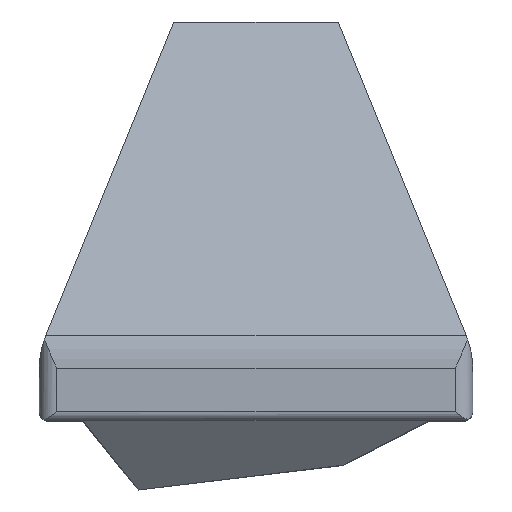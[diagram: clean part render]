
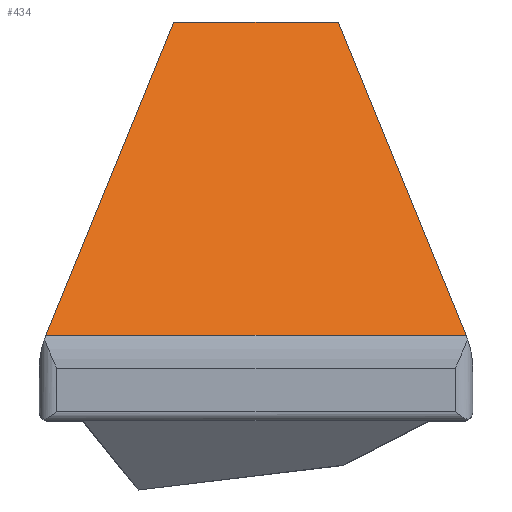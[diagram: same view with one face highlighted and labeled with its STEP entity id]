
A CAD part, top view. The second image highlights one B-rep face of the part: STEP entity #434.
In plain terms, the highlighted planar face has unit normal (0, 0.378, 0.926).
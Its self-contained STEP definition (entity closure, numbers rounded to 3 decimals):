
#228 = VERTEX_POINT( '', #637 );
#352 = EDGE_CURVE( '', #474, #228, #773, .T. );
#384 = VERTEX_POINT( '', #809 );
#396 = VERTEX_POINT( '', #824 );
#434 = ADVANCED_FACE( '', ( #865 ), #866, .F. );
#442 = EDGE_CURVE( '', #396, #228, #874, .T. );
#458 = EDGE_CURVE( '', #396, #384, #891, .T. );
#474 = VERTEX_POINT( '', #910 );
#550 = EDGE_CURVE( '', #474, #384, #992, .T. );
#637 = CARTESIAN_POINT( '', ( -12.13, -18.092, 12.13 ) );
#773 = LINE( '', #1285, #1286 );
#809 = CARTESIAN_POINT( '', ( 4.75, 0., 4.75 ) );
#824 = CARTESIAN_POINT( '', ( 12.13, -18.092, 12.13 ) );
#865 = FACE_OUTER_BOUND( '', #1439, .T. );
#866 = PLANE( '', #1440 );
#874 = LINE( '', #1451, #1452 );
#891 = LINE( '', #1494, #1495 );
#910 = CARTESIAN_POINT( '', ( -4.75, 0., 4.75 ) );
#992 = LINE( '', #1671, #1672 );
#1285 = CARTESIAN_POINT( '', ( -10.615, -14.38, 10.615 ) );
#1286 = VECTOR( '', #1930, 1. );
#1439 = EDGE_LOOP( '', ( #2024, #2025, #2026, #2027 ) );
#1440 = AXIS2_PLACEMENT_3D( '', #2028, #2029, #2030 );
#1451 = CARTESIAN_POINT( '', ( 23., -18.092, 12.13 ) );
#1452 = VECTOR( '', #2032, 1. );
#1494 = CARTESIAN_POINT( '', ( 10.257, -13.502, 10.257 ) );
#1495 = VECTOR( '', #2049, 1. );
#1671 = CARTESIAN_POINT( '', ( 11.5, 0., 4.75 ) );
#1672 = VECTOR( '', #2158, 1. );
#1930 = DIRECTION( '', ( -0.353, -0.866, 0.353 ) );
#2024 = ORIENTED_EDGE( '', *, *, #352, .T. );
#2025 = ORIENTED_EDGE( '', *, *, #442, .F. );
#2026 = ORIENTED_EDGE( '', *, *, #458, .T. );
#2027 = ORIENTED_EDGE( '', *, *, #550, .F. );
#2028 = CARTESIAN_POINT( '', ( 23., -18.092, 12.13 ) );
#2029 = DIRECTION( '', ( 0., -0.378, -0.926 ) );
#2030 = DIRECTION( '', ( 0., -0.926, 0.378 ) );
#2032 = DIRECTION( '', ( -1., 0., 0. ) );
#2049 = DIRECTION( '', ( -0.353, 0.866, -0.353 ) );
#2158 = DIRECTION( '', ( 1., 0., 0. ) );
